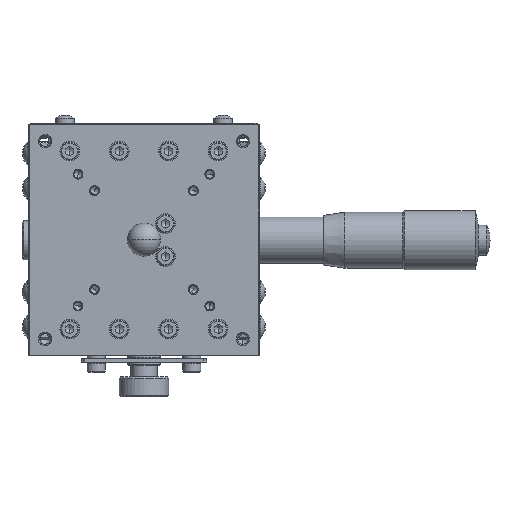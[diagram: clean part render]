
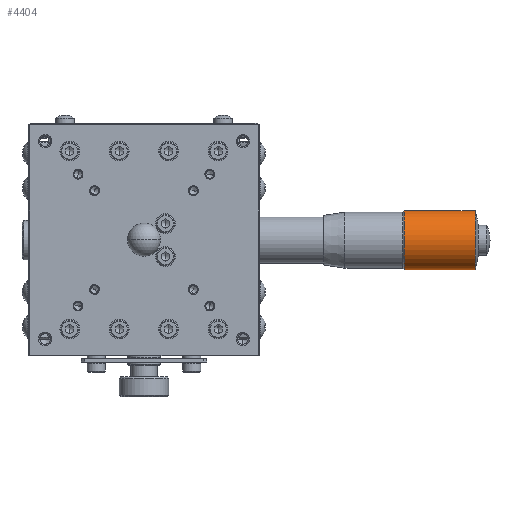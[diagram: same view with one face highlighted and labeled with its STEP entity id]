
A CAD part, top view. The second image highlights one B-rep face of the part: STEP entity #4404.
In plain terms, the highlighted cylindrical face has radius 9 mm (diameter 18 mm), a partial arc.
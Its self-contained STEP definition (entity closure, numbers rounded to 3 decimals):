
#4257 = EDGE_LOOP ( 'NONE', ( #4259, #4267, #4270, #4370 ) ) ;
#4259 = ORIENTED_EDGE ( 'NONE', *, *, #4261, .T. ) ;
#4261 = EDGE_CURVE ( 'NONE', #4262, #4265, #51212, .T. ) ;
#4262 = VERTEX_POINT ( 'NONE', #51208 ) ;
#4265 = VERTEX_POINT ( 'NONE', #51207 ) ;
#4267 = ORIENTED_EDGE ( 'NONE', *, *, #4268, .T. ) ;
#4268 = EDGE_CURVE ( 'NONE', #4265, #4296, #51263, .T. ) ;
#4270 = ORIENTED_EDGE ( 'NONE', *, *, #4397, .F. ) ;
#4294 = VERTEX_POINT ( 'NONE', #51239 ) ;
#4296 = VERTEX_POINT ( 'NONE', #51238 ) ;
#4370 = ORIENTED_EDGE ( 'NONE', *, *, #4371, .F. ) ;
#4371 = EDGE_CURVE ( 'NONE', #4262, #4294, #51351, .T. ) ;
#4397 = EDGE_CURVE ( 'NONE', #4294, #4296, #51383, .T. ) ;
#4404 = ADVANCED_FACE ( 'NONE', ( #51375 ), #51374, .T. ) ;
#51207 = CARTESIAN_POINT ( 'NONE',  ( 91., 9., 0. ) ) ;
#51208 = CARTESIAN_POINT ( 'NONE',  ( 91., -9., 0. ) ) ;
#51209 = DIRECTION ( 'NONE',  ( 0., -1., 0. ) ) ;
#51210 = DIRECTION ( 'NONE',  ( -1., 0., 0. ) ) ;
#51211 = AXIS2_PLACEMENT_3D ( 'NONE', #51217, #51210, #51209 ) ;
#51212 = CIRCLE ( 'NONE', #51211, 9. ) ;
#51217 = CARTESIAN_POINT ( 'NONE',  ( 91., 0., 0. ) ) ;
#51238 = CARTESIAN_POINT ( 'NONE',  ( 69.5, 9., 0. ) ) ;
#51239 = CARTESIAN_POINT ( 'NONE',  ( 69.5, -9., 0. ) ) ;
#51260 = DIRECTION ( 'NONE',  ( -1., 0., 0. ) ) ;
#51261 = VECTOR ( 'NONE', #51260, 1000. ) ;
#51262 = CARTESIAN_POINT ( 'NONE',  ( -2.669, 9., 0. ) ) ;
#51263 = LINE ( 'NONE', #51262, #51261 ) ;
#51348 = DIRECTION ( 'NONE',  ( -1., 0., 0. ) ) ;
#51349 = VECTOR ( 'NONE', #51348, 1000. ) ;
#51350 = CARTESIAN_POINT ( 'NONE',  ( -2.669, -9., 0. ) ) ;
#51351 = LINE ( 'NONE', #51350, #51349 ) ;
#51369 = DIRECTION ( 'NONE',  ( 0., -1., 0. ) ) ;
#51370 = DIRECTION ( 'NONE',  ( -1., 0., 0. ) ) ;
#51371 = CARTESIAN_POINT ( 'NONE',  ( -2.669, 0., 0. ) ) ;
#51372 = AXIS2_PLACEMENT_3D ( 'NONE', #51371, #51370, #51369 ) ;
#51374 = CYLINDRICAL_SURFACE ( 'NONE', #51372, 9. ) ;
#51375 = FACE_OUTER_BOUND ( 'NONE', #4257, .T. ) ;
#51380 = DIRECTION ( 'NONE',  ( 0., -1., 0. ) ) ;
#51381 = DIRECTION ( 'NONE',  ( -1., 0., 0. ) ) ;
#51382 = AXIS2_PLACEMENT_3D ( 'NONE', #51388, #51381, #51380 ) ;
#51383 = CIRCLE ( 'NONE', #51382, 9. ) ;
#51388 = CARTESIAN_POINT ( 'NONE',  ( 69.5, 0., 0. ) ) ;
